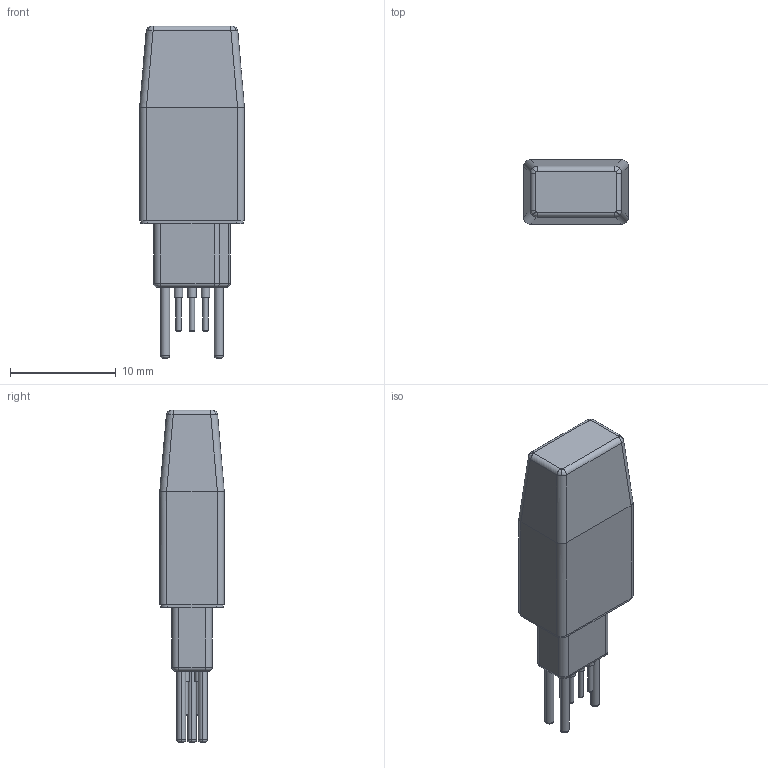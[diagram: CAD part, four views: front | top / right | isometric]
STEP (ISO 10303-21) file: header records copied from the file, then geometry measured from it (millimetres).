
FILE_DESCRIPTION (( 'STEP AP214' ), '1' );
FILE_NAME ('TC2030-MCP-NL-10.STEP', '2022-11-07T09:13:09', ( '' ), ( '' ), 'SwSTEP 2.0', 'SolidWorks 2022', '' );
FILE_SCHEMA (( 'AUTOMOTIVE_DESIGN' ));
Length unit declared in the file: millimetre
Products named in the file (1): TC2030-MCP-NL-10
Bounding box: 9.91 x 6.1 x 31.37 mm (x, y, z)
Volume: 1213.3 mm3; surface area: 866.5 mm2
Topology: 1 solids, 1 shells, 127 faces, 286 edges, 178 vertices
Faces by surface type: cylinder 58, plane 37, torus 24, bspline 8
Entity records: 5053 total; most frequent: CARTESIAN_POINT 764, DIRECTION 648, ORIENTED_EDGE 572, EDGE_CURVE 286, AXIS2_PLACEMENT_3D 270, VERTEX_POINT 178, CIRCLE 150, EDGE_LOOP 144
